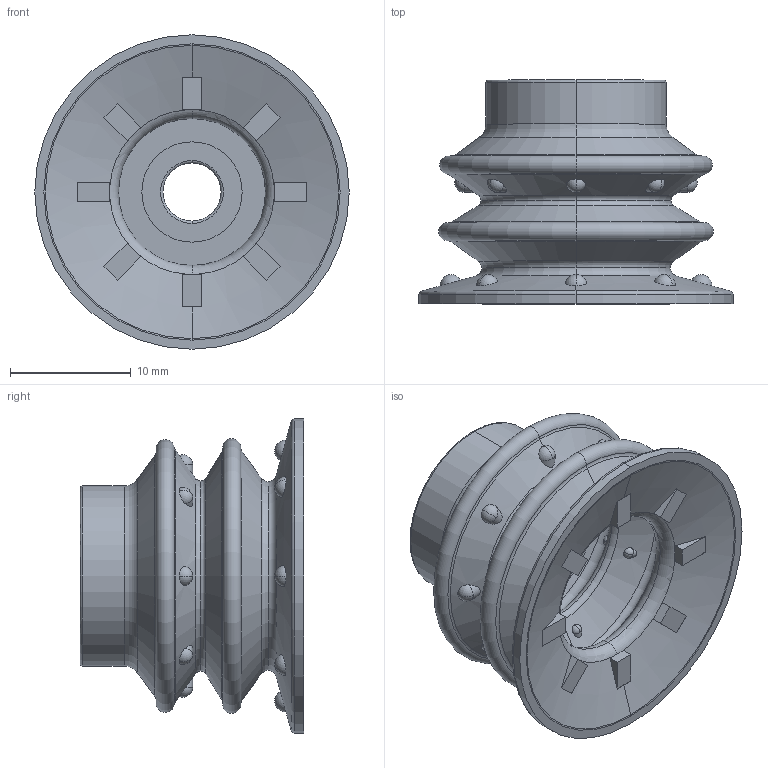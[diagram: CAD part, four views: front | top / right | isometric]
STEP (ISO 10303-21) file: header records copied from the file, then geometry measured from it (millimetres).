
FILE_DESCRIPTION (( 'STEP AP214' ), '1' );
FILE_NAME ('96-2 25--A .step', '2024-12-13T14:58:53', ( '' ), ( '' ), 'SwSTEP 2.0', 'SolidWorks 2021', '' );
FILE_SCHEMA (( 'AUTOMOTIVE_DESIGN' ));
Length unit declared in the file: millimetre
Products named in the file (1): 96-2 25--A 
Bounding box: 26 x 18.5 x 26 mm (x, y, z)
Volume: 2476.1 mm3; surface area: 3499.9 mm2
Topology: 1 solids, 1 shells, 192 faces, 452 edges, 288 vertices
Faces by surface type: sphere 56, torus 44, plane 44, cylinder 28, cone 20
Entity records: 6324 total; most frequent: CARTESIAN_POINT 1917, DIRECTION 934, ORIENTED_EDGE 904, EDGE_CURVE 452, AXIS2_PLACEMENT_3D 419, VERTEX_POINT 288, CIRCLE 226, EDGE_LOOP 220
